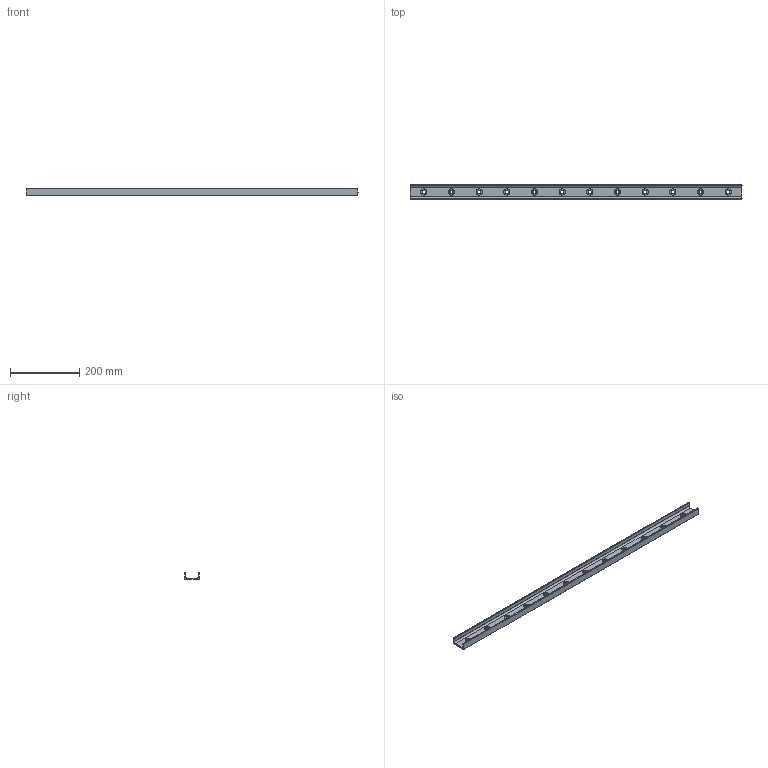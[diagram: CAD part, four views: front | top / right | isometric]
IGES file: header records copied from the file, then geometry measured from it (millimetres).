
Start section: SolidWorks IGES file using analytic representation for surfaces
Global section: file name: C:\Users\IanO\Desktop\43\L1943.ULC43_v2_20180121_IGES\L1943.ULC43-0960.igs; native system: SolidWorks 2017; preprocessor: SolidWorks 2017; author: IanO; date: 190121.084625; units: millimetre
Bounding box: 960 x 43 x 21 mm (x, y, z)
Surface area: 150986.5 mm2 (no closed solid volume)
Topology: 0 solids, 0 shells, 86 faces, 2022 edges, 2022 vertices
Faces by surface type: revolution 61, bspline 25
